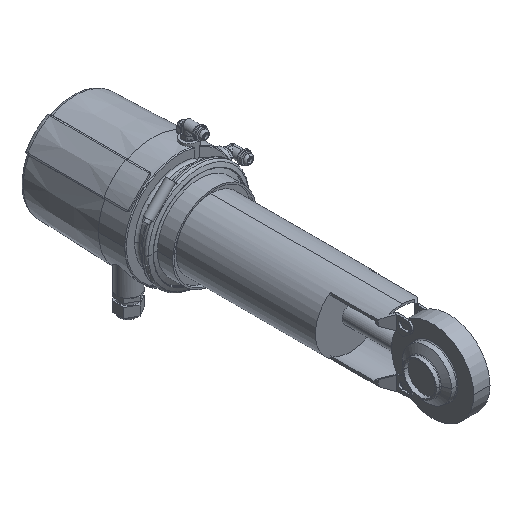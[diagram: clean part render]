
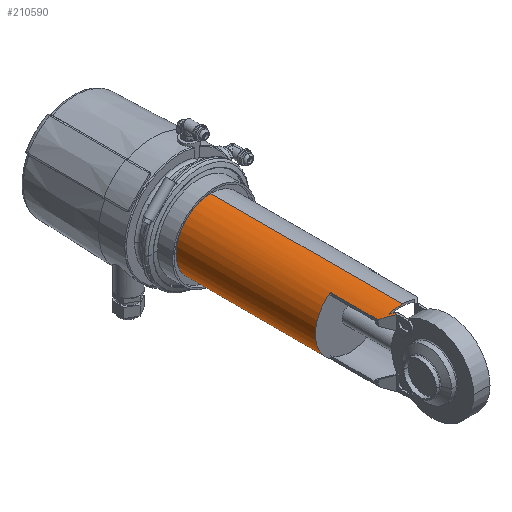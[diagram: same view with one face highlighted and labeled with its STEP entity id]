
A CAD part, isometric view. The second image highlights one B-rep face of the part: STEP entity #210590.
In plain terms, the highlighted cylindrical face has radius 42.5 mm (diameter 85 mm), a partial arc.
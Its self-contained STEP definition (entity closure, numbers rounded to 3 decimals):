
#193870=CARTESIAN_POINT('',(-97.686,119.743,
-35.075));
#193880=VERTEX_POINT('',#193870);
#193910=CARTESIAN_POINT('',(-73.686,119.743,
0.));
#193920=DIRECTION('',(0.,-1.,0.));
#193930=DIRECTION('',(0.,0.,1.));
#193940=AXIS2_PLACEMENT_3D('',#193910,#193920,#193930);
#193950=CIRCLE('',#193940,42.5);
#193960=CARTESIAN_POINT('',(-97.686,119.743,
35.075));
#193970=VERTEX_POINT('',#193960);
#193980=EDGE_CURVE('',#193970,#193880,#193950,.T.);
#196370=CARTESIAN_POINT('',(-73.686,56.343,
0.));
#196380=DIRECTION('',(0.,-1.,0.));
#196390=DIRECTION('',(0.,0.,-1.));
#196400=AXIS2_PLACEMENT_3D('',#196370,#196380,#196390);
#196410=CIRCLE('',#196400,42.5);
#196420=CARTESIAN_POINT('',(-73.686,56.343,-42.5));
#196430=VERTEX_POINT('',#196420);
#196480=CARTESIAN_POINT('',(-88.744,56.343,
-39.743));
#196490=VERTEX_POINT('',#196480);
#196500=EDGE_CURVE('',#196490,#196430,#196410,.T.);
#196810=CARTESIAN_POINT('',(-73.686,41.285,
0.));
#196820=DIRECTION('',(0.707,0.707,0.));
#196830=DIRECTION('',(0.707,-0.707,0.));
#196840=AXIS2_PLACEMENT_3D('',#196810,#196820,#196830);
#196850=ELLIPSE('',#196840,60.104,42.5);
#196860=CARTESIAN_POINT('',(-83.686,51.285,
-41.307));
#196870=VERTEX_POINT('',#196860);
#196880=EDGE_CURVE('',#196870,#196490,#196850,.T.);
#197060=CARTESIAN_POINT('',(-97.686,316.604,
-35.075));
#197070=DIRECTION('',(0.,-1.,0.));
#197080=VECTOR('',#197070,1.);
#197090=LINE('',#197060,#197080);
#197100=CARTESIAN_POINT('',(-97.686,61.749,
-35.075));
#197110=VERTEX_POINT('',#197100);
#197120=EDGE_CURVE('',#193880,#197110,#197090,.T.);
#197540=CARTESIAN_POINT('',(-86.186,43.794,
-40.62));
#197550=VERTEX_POINT('',#197540);
#197580=CARTESIAN_POINT('',(-86.186,316.604,
-40.62));
#197590=DIRECTION('',(0.,-1.,0.));
#197600=VECTOR('',#197590,1.);
#197610=LINE('',#197580,#197600);
#197620=CARTESIAN_POINT('',(-86.186,50.249,
-40.62));
#197630=VERTEX_POINT('',#197620);
#197640=EDGE_CURVE('',#197630,#197550,#197610,.T.);
#200040=CARTESIAN_POINT('',(-97.686,61.749,
35.075));
#200050=VERTEX_POINT('',#200040);
#200440=CARTESIAN_POINT('',(-97.686,316.604,
35.075));
#200450=DIRECTION('',(0.,-1.,0.));
#200460=VECTOR('',#200450,1.);
#200470=LINE('',#200440,#200460);
#200480=EDGE_CURVE('',#193970,#200050,#200470,.T.);
#202170=CARTESIAN_POINT('',(-86.186,53.785,
40.62));
#202180=VERTEX_POINT('',#202170);
#202210=CARTESIAN_POINT('',(-73.686,41.285,
0.));
#202220=DIRECTION('',(0.707,0.707,0.));
#202230=DIRECTION('',(-0.707,0.707,0.));
#202240=AXIS2_PLACEMENT_3D('',#202210,#202220,#202230);
#202250=ELLIPSE('',#202240,60.104,42.5);
#202260=CARTESIAN_POINT('',(-88.744,56.343,
39.743));
#202270=VERTEX_POINT('',#202260);
#202280=EDGE_CURVE('',#202270,#202180,#202250,.T.);
#202470=CARTESIAN_POINT('',(-73.686,56.343,
0.));
#202480=DIRECTION('',(0.,-1.,0.));
#202490=DIRECTION('',(0.,0.,1.));
#202500=AXIS2_PLACEMENT_3D('',#202470,#202480,#202490);
#202510=CIRCLE('',#202500,42.5);
#202520=CARTESIAN_POINT('',(-73.686,56.343,42.5));
#202530=VERTEX_POINT('',#202520);
#202540=EDGE_CURVE('',#202530,#202270,#202510,.T.);
#203140=CARTESIAN_POINT('',(-73.686,119.743,42.5));
#203150=DIRECTION('',(0.,-1.,0.));
#203160=VECTOR('',#203150,1.);
#203170=LINE('',#203140,#203160);
#203180=CARTESIAN_POINT('',(-73.686,289.743,42.5));
#203190=VERTEX_POINT('',#203180);
#203200=EDGE_CURVE('',#203190,#202530,#203170,.T.);
#203220=CARTESIAN_POINT('',(-73.686,289.743,
0.));
#203230=DIRECTION('',(0.,-1.,0.));
#203240=DIRECTION('',(0.,0.,-1.));
#203250=AXIS2_PLACEMENT_3D('',#203220,#203230,#203240);
#203260=CIRCLE('',#203250,42.5);
#203270=CARTESIAN_POINT('',(-73.686,289.743,-42.5));
#203280=VERTEX_POINT('',#203270);
#203310=CARTESIAN_POINT('',(-73.686,119.743,-42.5));
#203320=DIRECTION('',(0.,-1.,0.));
#203330=VECTOR('',#203320,1.);
#203340=LINE('',#203310,#203330);
#203350=EDGE_CURVE('',#203280,#196430,#203340,.T.);
#203470=EDGE_CURVE('',#203190,#203280,#203260,.T.);
#203580=CARTESIAN_POINT('',(-73.686,37.749,
0.));
#203590=DIRECTION('',(-0.707,-0.707,0.));
#203600=DIRECTION('',(0.707,-0.707,0.));
#203610=AXIS2_PLACEMENT_3D('',#203580,#203590,#203600);
#203620=ELLIPSE('',#203610,60.104,42.5);
#203630=CARTESIAN_POINT('',(-86.186,50.249,
40.62));
#203640=VERTEX_POINT('',#203630);
#203650=EDGE_CURVE('',#203640,#200050,#203620,.T.);
#204550=CARTESIAN_POINT('',(-86.186,316.604,
40.62));
#204560=DIRECTION('',(0.,-1.,0.));
#204570=VECTOR('',#204560,1.);
#204580=LINE('',#204550,#204570);
#204610=EDGE_CURVE('',#202180,#203640,#204580,.T.);
#205160=CARTESIAN_POINT('',(-73.686,37.749,
0.));
#205170=DIRECTION('',(0.707,0.707,0.));
#205180=DIRECTION('',(0.707,-0.707,0.));
#205190=AXIS2_PLACEMENT_3D('',#205160,#205170,#205180);
#205200=ELLIPSE('',#205190,60.104,42.5);
#205210=EDGE_CURVE('',#197630,#197110,#205200,.T.);
#205470=CARTESIAN_POINT('',(-83.686,316.604,
-41.307));
#205480=DIRECTION('',(0.,-1.,0.));
#205490=VECTOR('',#205480,1.);
#205500=LINE('',#205470,#205490);
#205510=CARTESIAN_POINT('',(-83.686,47.749,
-41.307));
#205520=VERTEX_POINT('',#205510);
#205530=EDGE_CURVE('',#196870,#205520,#205500,.T.);
#205810=CARTESIAN_POINT('',(-84.334,48.397,
-41.145));
#205820=VERTEX_POINT('',#205810);
#205860=CARTESIAN_POINT('',(-73.686,37.749,
0.));
#205870=DIRECTION('',(-0.707,-0.707,0.));
#205880=DIRECTION('',(-0.707,0.707,0.));
#205890=AXIS2_PLACEMENT_3D('',#205860,#205870,#205880);
#205900=ELLIPSE('',#205890,60.104,42.5);
#205910=EDGE_CURVE('',#205820,#205520,#205900,.T.);
#206010=CARTESIAN_POINT('',(-73.686,-312.724,
0.));
#206020=DIRECTION('',(0.,-0.113,-0.994));
#206030=DIRECTION('',(0.,0.994,-0.113));
#206040=AXIS2_PLACEMENT_3D('',#206010,#206020,#206030);
#206050=ELLIPSE('',#206040,375.431,42.5);
#206060=EDGE_CURVE('',#197550,#205820,#206050,.T.);
#210350=CARTESIAN_POINT('',(-73.686,119.743,
0.));
#210360=DIRECTION('',(0.,-1.,0.));
#210370=DIRECTION('',(0.,0.,-1.));
#210380=AXIS2_PLACEMENT_3D('',#210350,#210360,#210370);
#210390=CYLINDRICAL_SURFACE('',#210380,42.5);
#210400=ORIENTED_EDGE('',*,*,#203200,.F.);
#210410=ORIENTED_EDGE('',*,*,#202540,.F.);
#210420=ORIENTED_EDGE('',*,*,#202280,.F.);
#210430=ORIENTED_EDGE('',*,*,#204610,.F.);
#210440=ORIENTED_EDGE('',*,*,#203650,.F.);
#210450=ORIENTED_EDGE('',*,*,#200480,.T.);
#210460=ORIENTED_EDGE('',*,*,#193980,.F.);
#210470=ORIENTED_EDGE('',*,*,#197120,.F.);
#210480=ORIENTED_EDGE('',*,*,#205210,.T.);
#210490=ORIENTED_EDGE('',*,*,#197640,.F.);
#210500=ORIENTED_EDGE('',*,*,#206060,.F.);
#210510=ORIENTED_EDGE('',*,*,#205910,.F.);
#210520=ORIENTED_EDGE('',*,*,#205530,.T.);
#210530=ORIENTED_EDGE('',*,*,#196880,.F.);
#210540=ORIENTED_EDGE('',*,*,#196500,.F.);
#210550=ORIENTED_EDGE('',*,*,#203350,.T.);
#210560=ORIENTED_EDGE('',*,*,#203470,.T.);
#210570=EDGE_LOOP('',(#210560,#210550,#210540,#210530,#210520,#210510,
#210500,#210490,#210480,#210470,#210460,#210450,#210440,#210430,#210420,
#210410,#210400));
#210580=FACE_OUTER_BOUND('',#210570,.T.);
#210590=ADVANCED_FACE('',(#210580),#210390,.T.);
